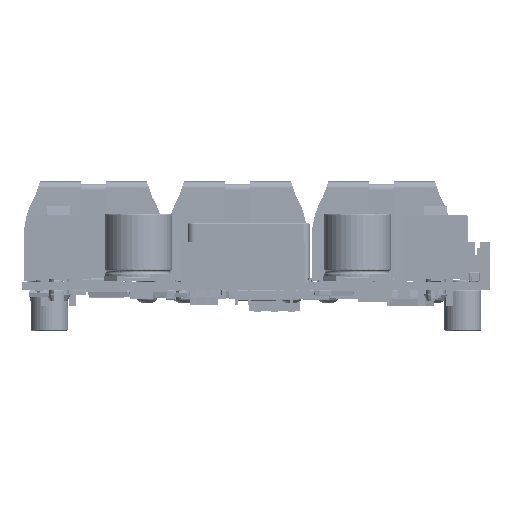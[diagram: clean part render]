
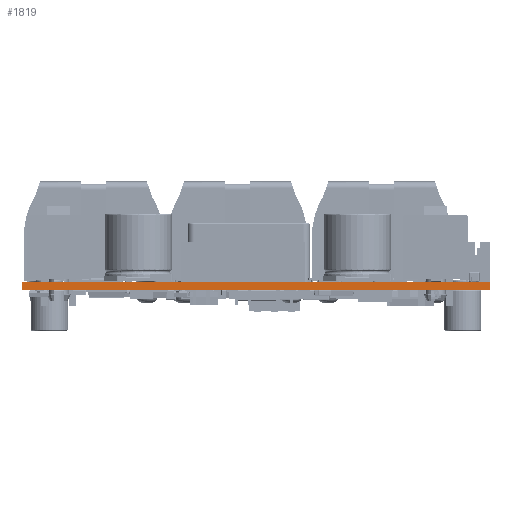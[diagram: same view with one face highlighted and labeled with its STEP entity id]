
A CAD part, left-side view. The second image highlights one B-rep face of the part: STEP entity #1819.
In plain terms, the highlighted planar face has unit normal (-1, 0, 0).
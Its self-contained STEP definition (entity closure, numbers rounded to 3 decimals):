
#948 = EDGE_CURVE('',#949,#951,#953,.T.);
#949 = VERTEX_POINT('',#950);
#950 = CARTESIAN_POINT('',(0.,0.,0.));
#951 = VERTEX_POINT('',#952);
#952 = CARTESIAN_POINT('',(0.,0.,1.203));
#953 = SURFACE_CURVE('',#954,(#958,#970),.PCURVE_S1.);
#954 = LINE('',#955,#956);
#955 = CARTESIAN_POINT('',(0.,0.,0.));
#956 = VECTOR('',#957,1.);
#957 = DIRECTION('',(0.,0.,1.));
#958 = PCURVE('',#959,#964);
#959 = PLANE('',#960);
#960 = AXIS2_PLACEMENT_3D('',#961,#962,#963);
#961 = CARTESIAN_POINT('',(0.,0.,0.));
#962 = DIRECTION('',(0.,1.,0.));
#963 = DIRECTION('',(1.,0.,0.));
#964 = DEFINITIONAL_REPRESENTATION('',(#965),#969);
#965 = LINE('',#966,#967);
#966 = CARTESIAN_POINT('',(0.,0.));
#967 = VECTOR('',#968,1.);
#968 = DIRECTION('',(0.,-1.));
#969 = ( GEOMETRIC_REPRESENTATION_CONTEXT(2) 
PARAMETRIC_REPRESENTATION_CONTEXT() REPRESENTATION_CONTEXT('2D SPACE',''
  ) );
#970 = PCURVE('',#971,#976);
#971 = PLANE('',#972);
#972 = AXIS2_PLACEMENT_3D('',#973,#974,#975);
#973 = CARTESIAN_POINT('',(0.,69.85,0.));
#974 = DIRECTION('',(1.,0.,0.));
#975 = DIRECTION('',(0.,-1.,0.));
#976 = DEFINITIONAL_REPRESENTATION('',(#977),#981);
#977 = LINE('',#978,#979);
#978 = CARTESIAN_POINT('',(69.85,0.));
#979 = VECTOR('',#980,1.);
#980 = DIRECTION('',(0.,-1.));
#981 = ( GEOMETRIC_REPRESENTATION_CONTEXT(2) 
PARAMETRIC_REPRESENTATION_CONTEXT() REPRESENTATION_CONTEXT('2D SPACE',''
  ) );
#999 = PLANE('',#1000);
#1000 = AXIS2_PLACEMENT_3D('',#1001,#1002,#1003);
#1001 = CARTESIAN_POINT('',(0.,0.,1.203));
#1002 = DIRECTION('',(0.,0.,-1.));
#1003 = DIRECTION('',(-1.,0.,0.));
#1053 = PLANE('',#1054);
#1054 = AXIS2_PLACEMENT_3D('',#1055,#1056,#1057);
#1055 = CARTESIAN_POINT('',(0.,0.,0.));
#1056 = DIRECTION('',(0.,0.,-1.));
#1057 = DIRECTION('',(-1.,0.,0.));
#1716 = PLANE('',#1717);
#1717 = AXIS2_PLACEMENT_3D('',#1718,#1719,#1720);
#1718 = CARTESIAN_POINT('',(67.82,69.86,0.));
#1719 = DIRECTION('',(0.,-1.,0.));
#1720 = DIRECTION('',(-1.,0.,0.));
#1754 = VERTEX_POINT('',#1755);
#1755 = CARTESIAN_POINT('',(0.,69.85,1.203));
#1776 = EDGE_CURVE('',#1777,#1754,#1779,.T.);
#1777 = VERTEX_POINT('',#1778);
#1778 = CARTESIAN_POINT('',(0.,69.85,0.));
#1779 = SURFACE_CURVE('',#1780,(#1784,#1791),.PCURVE_S1.);
#1780 = LINE('',#1781,#1782);
#1781 = CARTESIAN_POINT('',(0.,69.85,0.));
#1782 = VECTOR('',#1783,1.);
#1783 = DIRECTION('',(0.,0.,1.));
#1784 = PCURVE('',#1716,#1785);
#1785 = DEFINITIONAL_REPRESENTATION('',(#1786),#1790);
#1786 = LINE('',#1787,#1788);
#1787 = CARTESIAN_POINT('',(67.82,0.));
#1788 = VECTOR('',#1789,1.);
#1789 = DIRECTION('',(0.,-1.));
#1790 = ( GEOMETRIC_REPRESENTATION_CONTEXT(2) 
PARAMETRIC_REPRESENTATION_CONTEXT() REPRESENTATION_CONTEXT('2D SPACE',''
  ) );
#1791 = PCURVE('',#971,#1792);
#1792 = DEFINITIONAL_REPRESENTATION('',(#1793),#1797);
#1793 = LINE('',#1794,#1795);
#1794 = CARTESIAN_POINT('',(0.,0.));
#1795 = VECTOR('',#1796,1.);
#1796 = DIRECTION('',(0.,-1.));
#1797 = ( GEOMETRIC_REPRESENTATION_CONTEXT(2) 
PARAMETRIC_REPRESENTATION_CONTEXT() REPRESENTATION_CONTEXT('2D SPACE',''
  ) );
#1819 = ADVANCED_FACE('',(#1820),#971,.F.);
#1820 = FACE_BOUND('',#1821,.F.);
#1821 = EDGE_LOOP('',(#1822,#1823,#1844,#1845));
#1822 = ORIENTED_EDGE('',*,*,#1776,.T.);
#1823 = ORIENTED_EDGE('',*,*,#1824,.T.);
#1824 = EDGE_CURVE('',#1754,#951,#1825,.T.);
#1825 = SURFACE_CURVE('',#1826,(#1830,#1837),.PCURVE_S1.);
#1826 = LINE('',#1827,#1828);
#1827 = CARTESIAN_POINT('',(0.,69.85,1.203));
#1828 = VECTOR('',#1829,1.);
#1829 = DIRECTION('',(0.,-1.,0.));
#1830 = PCURVE('',#971,#1831);
#1831 = DEFINITIONAL_REPRESENTATION('',(#1832),#1836);
#1832 = LINE('',#1833,#1834);
#1833 = CARTESIAN_POINT('',(0.,-1.203));
#1834 = VECTOR('',#1835,1.);
#1835 = DIRECTION('',(1.,0.));
#1836 = ( GEOMETRIC_REPRESENTATION_CONTEXT(2) 
PARAMETRIC_REPRESENTATION_CONTEXT() REPRESENTATION_CONTEXT('2D SPACE',''
  ) );
#1837 = PCURVE('',#999,#1838);
#1838 = DEFINITIONAL_REPRESENTATION('',(#1839),#1843);
#1839 = LINE('',#1840,#1841);
#1840 = CARTESIAN_POINT('',(0.,69.85));
#1841 = VECTOR('',#1842,1.);
#1842 = DIRECTION('',(0.,-1.));
#1843 = ( GEOMETRIC_REPRESENTATION_CONTEXT(2) 
PARAMETRIC_REPRESENTATION_CONTEXT() REPRESENTATION_CONTEXT('2D SPACE',''
  ) );
#1844 = ORIENTED_EDGE('',*,*,#948,.F.);
#1845 = ORIENTED_EDGE('',*,*,#1846,.F.);
#1846 = EDGE_CURVE('',#1777,#949,#1847,.T.);
#1847 = SURFACE_CURVE('',#1848,(#1852,#1859),.PCURVE_S1.);
#1848 = LINE('',#1849,#1850);
#1849 = CARTESIAN_POINT('',(0.,69.85,0.));
#1850 = VECTOR('',#1851,1.);
#1851 = DIRECTION('',(0.,-1.,0.));
#1852 = PCURVE('',#971,#1853);
#1853 = DEFINITIONAL_REPRESENTATION('',(#1854),#1858);
#1854 = LINE('',#1855,#1856);
#1855 = CARTESIAN_POINT('',(0.,0.));
#1856 = VECTOR('',#1857,1.);
#1857 = DIRECTION('',(1.,0.));
#1858 = ( GEOMETRIC_REPRESENTATION_CONTEXT(2) 
PARAMETRIC_REPRESENTATION_CONTEXT() REPRESENTATION_CONTEXT('2D SPACE',''
  ) );
#1859 = PCURVE('',#1053,#1860);
#1860 = DEFINITIONAL_REPRESENTATION('',(#1861),#1865);
#1861 = LINE('',#1862,#1863);
#1862 = CARTESIAN_POINT('',(0.,69.85));
#1863 = VECTOR('',#1864,1.);
#1864 = DIRECTION('',(0.,-1.));
#1865 = ( GEOMETRIC_REPRESENTATION_CONTEXT(2) 
PARAMETRIC_REPRESENTATION_CONTEXT() REPRESENTATION_CONTEXT('2D SPACE',''
  ) );
